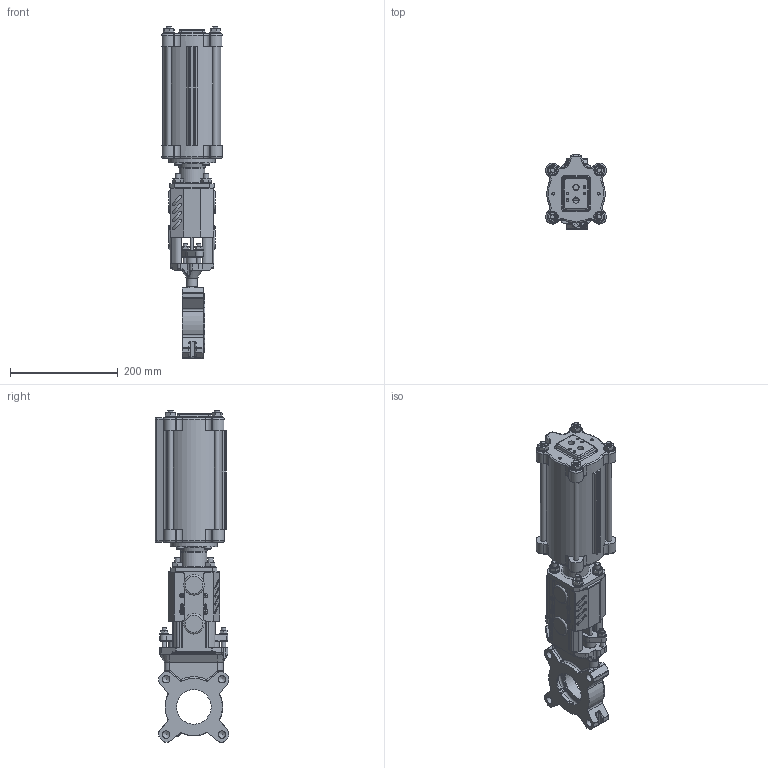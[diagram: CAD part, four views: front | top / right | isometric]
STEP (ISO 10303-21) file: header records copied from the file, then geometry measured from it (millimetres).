
FILE_DESCRIPTION(/* description */ (''),/* implementation_level */ '2;1');
FILE_NAME(/* name */ 'F:\Emir\3D-block special\MV VALVE\PNEUMATIC ACTUATOR\MV-DN65-PN10-FRSC100-115.stp',/* time_stamp */ '2018-03-21T10:37:54+01:00',/* author */ ('emimus'),/* organization */ (''),/* preprocessor_version */ 'ST-DEVELOPER v17',/* originating_system */ 'Autodesk Inventor 2018',/* authorisation */ '');
FILE_SCHEMA (('CONFIG_CONTROL_DESIGN'));
Products named in the file (1): MV-DN65-PN10-FRSC100-115
Bounding box: 112.17 x 137 x 615 mm (x, y, z)
Volume: 1876862.5 mm3; surface area: 642166.7 mm2
Topology: 4 solids, 4 shells, 2039 faces, 5196 edges, 3247 vertices
Faces by surface type: plane 748, cylinder 561, cone 222, torus 220, bspline 202, sphere 86
Full cylindrical faces by diameter (mm): 3 x10, 3.5 x2, 3.6 x2, 4 x6, 4.134 x4, 4.2 x12, 4.5 x4, 4.917 x4, 6 x6, 8 x13, 8.4 x2, 9 x2, 10 x20, 10.106 x1, 10.5 x8, 11 x8, 11.445 x2, 12 x2, 13 x4, 13.835 x8, 14 x1, 14.376 x1, 15 x5, 16 x2, 18 x1, 20 x9, 20.15 x2, 22 x1, 24 x5, 26 x1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
Entity records: 69156 total; most frequent: CARTESIAN_POINT 20114, DIRECTION 10563, ORIENTED_EDGE 10298, EDGE_CURVE 5149, AXIS2_PLACEMENT_3D 4326, VERTEX_POINT 3247, CIRCLE 2310, EDGE_LOOP 2266
